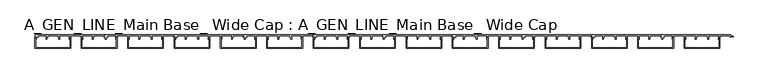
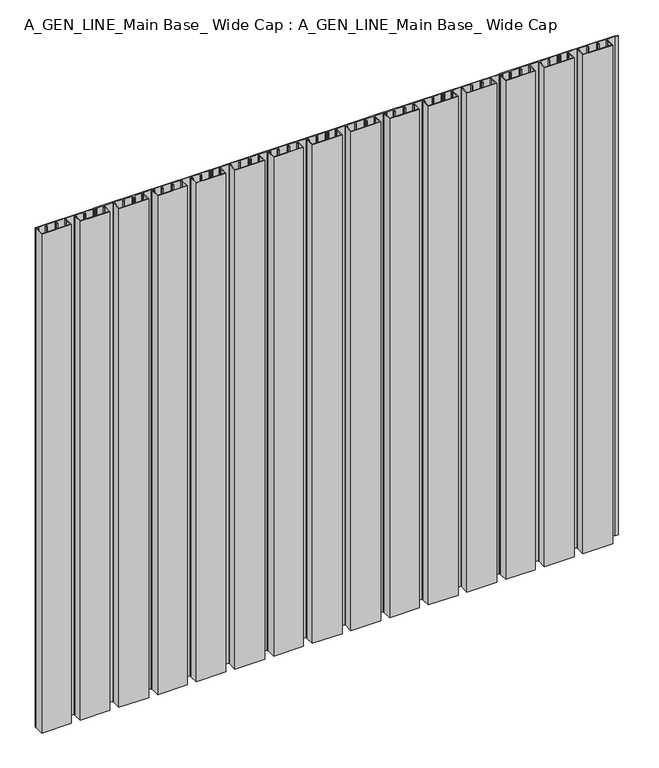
"""IFC4 building model written with IfcOpenShell, lengths in millimetres: proxy geometry, A_GEN_LINE_Main Base_ Wide Cap : A_GEN_LINE_Main Base_ Wide Cap."""

from ifc_helpers import new_model, si_unit, origin, origin_with_axes, place, context, project, spatial, polyline, outline, extrude, source, transform, mapped, element, save


def a_gen_line_main_base_wide_cap_a_gen_line_main_base_wide_cap_99c77cfe(model_context):
    return source(origin(), model_context, "Body", "SweptSolid", [
        extrude(outline(polyline([(1539.7876973, -32.2007192), (1539.7876973, -6.1), (1541.9367042, -6.1), (1541.9367042, -8.3419727), (1541.1876973, -8.5826662), (1541.1876973, -30.8007192), (1623.0107117, -30.8007192), (1623.0107117, -8.5826662), (1622.2617048, -8.3419727), (1622.2617048, -6.1), (1624.4107117, -6.1), (1624.4107117, -32.2007192), (1539.7876973, -32.2007192)])), origin_with_axes(), (0.0, 0.0, 1.0), 1500.0),
        extrude(outline(polyline([(1429.7866985, -32.2007192), (1429.7866985, -6.1), (1431.9357055, -6.1), (1431.9357055, -8.3419727), (1431.1866985, -8.5826662), (1431.1866985, -30.8007192), (1513.009713, -30.8007192), (1513.009713, -8.5826662), (1512.260706, -8.3419727), (1512.260706, -6.1), (1514.409713, -6.1), (1514.409713, -32.2007192), (1429.7866985, -32.2007192)])), origin_with_axes(), (0.0, 0.0, 1.0), 1500.0),
        extrude(outline(polyline([(1319.7856997, -32.2007192), (1319.7856997, -6.1), (1321.9347067, -6.1), (1321.9347067, -8.3419727), (1321.1856997, -8.5826662), (1321.1856997, -30.8007192), (1403.0087142, -30.8007192), (1403.0087142, -8.5826662), (1402.2597072, -8.3419727), (1402.2597072, -6.1), (1404.4087142, -6.1), (1404.4087142, -32.2007192), (1319.7856997, -32.2007192)])), origin_with_axes(), (0.0, 0.0, 1.0), 1500.0),
        extrude(outline(polyline([(1209.7847009, -32.2007192), (1209.7847009, -6.1), (1211.9337079, -6.1), (1211.9337079, -8.3419727), (1211.1847009, -8.5826662), (1211.1847009, -30.8007192), (1293.0077154, -30.8007192), (1293.0077154, -8.5826662), (1292.2587084, -8.3419727), (1292.2587084, -6.1), (1294.4077154, -6.1), (1294.4077154, -32.2007192), (1209.7847009, -32.2007192)])), origin_with_axes(), (0.0, 0.0, 1.0), 1500.0),
        extrude(outline(polyline([(1099.7837022, -32.2007192), (1099.7837022, -6.1), (1101.9327091, -6.1), (1101.9327091, -8.3419727), (1101.1837022, -8.5826662), (1101.1837022, -30.8007192), (1183.0067166, -30.8007192), (1183.0067166, -8.5826662), (1182.2577096, -8.3419727), (1182.2577096, -6.1), (1184.4067166, -6.1), (1184.4067166, -32.2007192), (1099.7837022, -32.2007192)])), origin_with_axes(), (0.0, 0.0, 1.0), 1500.0),
        extrude(outline(polyline([(1485.0, 0.0), (1649.5761088, 0.0), (1649.5761088, -2.85), (1655.5761088, -2.85), (1655.5761088, -4.2), (1648.0577537, -4.2), (1648.0577537, -2.4), (1624.5881862, -2.4), (1624.5881862, -6.1021884), (1623.4732128, -6.1021884), (1621.884647, -8.4994005), (1623.1465809, -8.4994005), (1623.1465809, -10.4818695), (1620.9440548, -10.4818695), (1620.9773381, -5.5238337), (1623.0474159, -2.4), (1596.1309809, -2.4), (1598.2301021, -5.6343123), (1598.2301021, -10.4818695), (1596.027576, -10.4818695), (1596.027576, -8.4994005), (1597.2895099, -8.4994005), (1595.7009441, -6.1021884), (1594.5859707, -6.1021884), (1594.5859707, -2.4), (1569.5854713, -2.4), (1569.5854713, -6.1021884), (1568.4704978, -6.1021884), (1566.881932, -8.4994005), (1568.1438659, -8.4994005), (1568.1438659, -10.4818695), (1565.9413399, -10.4818695), (1565.9413399, -5.5740595), (1568.0447009, -2.4), (1541.1304815, -2.4), (1543.2296027, -5.6343123), (1543.2296027, -10.4818695), (1541.0270766, -10.4818695), (1541.0270766, -8.4994005), (1542.2890105, -8.4994005), (1540.7004447, -6.1021884), (1539.5854713, -6.1021884), (1539.5854713, -2.4), (1514.5849719, -2.4), (1514.5849719, -6.1021884), (1513.4699984, -6.1021884), (1511.8814326, -8.4994005), (1513.1433665, -8.4994005), (1513.1433665, -10.4818695), (1510.9408405, -10.4818695), (1510.9408405, -5.6343123), (1513.0399616, -2.4), (1492.2195527, -2.4), (1492.2195527, -6.1), (1488.2291033, -6.1), (1488.2291033, -10.4818695), (1486.0265772, -10.4818695), (1486.0265772, -8.4994005), (1487.2885111, -8.4994005), (1485.6999453, -6.1021884), (1484.6137598, -6.1021884), (1484.6137598, -4.9), (1491.0195527, -4.9), (1491.0195527, -2.7), (1485.0, -2.7), (1485.0, 0.0)])), origin_with_axes(), (0.0, 0.0, 1.0), 1500.0),
        extrude(outline(polyline([(1320.0, 0.0), (1484.5761088, 0.0), (1484.5761088, -2.85), (1490.5761088, -2.85), (1490.5761088, -4.2), (1483.0577537, -4.2), (1483.0577537, -2.4), (1459.5881862, -2.4), (1459.5881862, -6.1021884), (1458.4732128, -6.1021884), (1456.884647, -8.4994005), (1458.1465809, -8.4994005), (1458.1465809, -10.4818695), (1455.9440548, -10.4818695), (1455.9773381, -5.5238337), (1458.0474159, -2.4), (1431.1309809, -2.4), (1433.2301021, -5.6343123), (1433.2301021, -10.4818695), (1431.027576, -10.4818695), (1431.027576, -8.4994005), (1432.2895099, -8.4994005), (1430.7009441, -6.1021884), (1429.5859707, -6.1021884), (1429.5859707, -2.4), (1404.5854713, -2.4), (1404.5854713, -6.1021884), (1403.4704978, -6.1021884), (1401.881932, -8.4994005), (1403.1438659, -8.4994005), (1403.1438659, -10.4818695), (1400.9413399, -10.4818695), (1400.9413399, -5.5740595), (1403.0447009, -2.4), (1376.1304815, -2.4), (1378.2296027, -5.6343123), (1378.2296027, -10.4818695), (1376.0270766, -10.4818695), (1376.0270766, -8.4994005), (1377.2890105, -8.4994005), (1375.7004447, -6.1021884), (1374.5854713, -6.1021884), (1374.5854713, -2.4), (1349.5849719, -2.4), (1349.5849719, -6.1021884), (1348.4699984, -6.1021884), (1346.8814326, -8.4994005), (1348.1433665, -8.4994005), (1348.1433665, -10.4818695), (1345.9408405, -10.4818695), (1345.9408405, -5.6343123), (1348.0399616, -2.4), (1327.2195527, -2.4), (1327.2195527, -6.1), (1323.2291033, -6.1), (1323.2291033, -10.4818695), (1321.0265772, -10.4818695), (1321.0265772, -8.4994005), (1322.2885111, -8.4994005), (1320.6999453, -6.1021884), (1319.6137598, -6.1021884), (1319.6137598, -4.9), (1326.0195527, -4.9), (1326.0195527, -2.7), (1320.0, -2.7), (1320.0, 0.0)])), origin_with_axes(), (0.0, 0.0, 1.0), 1500.0),
        extrude(outline(polyline([(1155.0, 0.0), (1319.5761088, 0.0), (1319.5761088, -2.85), (1325.5761088, -2.85), (1325.5761088, -4.2), (1318.0577537, -4.2), (1318.0577537, -2.4), (1294.5881862, -2.4), (1294.5881862, -6.1021884), (1293.4732128, -6.1021884), (1291.884647, -8.4994005), (1293.1465809, -8.4994005), (1293.1465809, -10.4818695), (1290.9440548, -10.4818695), (1290.9773381, -5.5238337), (1293.0474159, -2.4), (1266.1309809, -2.4), (1268.2301021, -5.6343123), (1268.2301021, -10.4818695), (1266.027576, -10.4818695), (1266.027576, -8.4994005), (1267.2895099, -8.4994005), (1265.7009441, -6.1021884), (1264.5859707, -6.1021884), (1264.5859707, -2.4), (1239.5854713, -2.4), (1239.5854713, -6.1021884), (1238.4704978, -6.1021884), (1236.881932, -8.4994005), (1238.1438659, -8.4994005), (1238.1438659, -10.4818695), (1235.9413399, -10.4818695), (1235.9413399, -5.5740595), (1238.0447009, -2.4), (1211.1304815, -2.4), (1213.2296027, -5.6343123), (1213.2296027, -10.4818695), (1211.0270766, -10.4818695), (1211.0270766, -8.4994005), (1212.2890105, -8.4994005), (1210.7004447, -6.1021884), (1209.5854713, -6.1021884), (1209.5854713, -2.4), (1184.5849719, -2.4), (1184.5849719, -6.1021884), (1183.4699984, -6.1021884), (1181.8814326, -8.4994005), (1183.1433665, -8.4994005), (1183.1433665, -10.4818695), (1180.9408405, -10.4818695), (1180.9408405, -5.6343123), (1183.0399616, -2.4), (1162.2195527, -2.4), (1162.2195527, -6.1), (1158.2291033, -6.1), (1158.2291033, -10.4818695), (1156.0265772, -10.4818695), (1156.0265772, -8.4994005), (1157.2885111, -8.4994005), (1155.6999453, -6.1021884), (1154.6137598, -6.1021884), (1154.6137598, -4.9), (1161.0195527, -4.9), (1161.0195527, -2.7), (1155.0, -2.7), (1155.0, 0.0)])), origin_with_axes(), (0.0, 0.0, 1.0), 1500.0),
        extrude(outline(polyline([(989.7827034, -32.2007192), (989.7827034, -6.1), (991.9317103, -6.1), (991.9317103, -8.3419727), (991.1827034, -8.5826662), (991.1827034, -30.8007192), (1073.0057178, -30.8007192), (1073.0057178, -8.5826662), (1072.2567109, -8.3419727), (1072.2567109, -6.1), (1074.4057178, -6.1), (1074.4057178, -32.2007192), (989.7827034, -32.2007192)])), origin_with_axes(), (0.0, 0.0, 1.0), 1500.0),
        extrude(outline(polyline([(879.7817046, -32.2007192), (879.7817046, -6.1), (881.9307115, -6.1), (881.9307115, -8.3419727), (881.1817046, -8.5826662), (881.1817046, -30.8007192), (963.004719, -30.8007192), (963.004719, -8.5826662), (962.2557121, -8.3419727), (962.2557121, -6.1), (964.404719, -6.1), (964.404719, -32.2007192), (879.7817046, -32.2007192)])), origin_with_axes(), (0.0, 0.0, 1.0), 1500.0),
        extrude(outline(polyline([(769.7807058, -32.2007192), (769.7807058, -6.1), (771.9297128, -6.1), (771.9297128, -8.3419727), (771.1807058, -8.5826662), (771.1807058, -30.8007192), (853.0037203, -30.8007192), (853.0037203, -8.5826662), (852.2547133, -8.3419727), (852.2547133, -6.1), (854.4037203, -6.1), (854.4037203, -32.2007192), (769.7807058, -32.2007192)])), origin_with_axes(), (0.0, 0.0, 1.0), 1500.0),
        extrude(outline(polyline([(659.779707, -32.2007192), (659.779707, -6.1), (661.928714, -6.1), (661.928714, -8.3419727), (661.179707, -8.5826662), (661.179707, -30.8007192), (743.0027215, -30.8007192), (743.0027215, -8.5826662), (742.2537145, -8.3419727), (742.2537145, -6.1), (744.4027215, -6.1), (744.4027215, -32.2007192), (659.779707, -32.2007192)])), origin_with_axes(), (0.0, 0.0, 1.0), 1500.0),
        extrude(outline(polyline([(549.7787082, -32.2007192), (549.7787082, -6.1), (551.9277152, -6.1), (551.9277152, -8.3419727), (551.1787082, -8.5826662), (551.1787082, -30.8007192), (633.0017227, -30.8007192), (633.0017227, -8.5826662), (632.2527157, -8.3419727), (632.2527157, -6.1), (634.4017227, -6.1), (634.4017227, -32.2007192), (549.7787082, -32.2007192)])), origin_with_axes(), (0.0, 0.0, 1.0), 1500.0),
        extrude(outline(polyline([(439.7777095, -32.2007192), (439.7777095, -6.1), (441.9267164, -6.1), (441.9267164, -8.3419727), (441.1777095, -8.5826662), (441.1777095, -30.8007192), (523.0007239, -30.8007192), (523.0007239, -8.5826662), (522.251717, -8.3419727), (522.251717, -6.1), (524.4007239, -6.1), (524.4007239, -32.2007192), (439.7777095, -32.2007192)])), origin_with_axes(), (0.0, 0.0, 1.0), 1500.0),
        extrude(outline(polyline([(329.7767107, -32.2007192), (329.7767107, -6.1), (331.9257176, -6.1), (331.9257176, -8.3419727), (331.1767107, -8.5826662), (331.1767107, -30.8007192), (412.9997251, -30.8007192), (412.9997251, -8.5826662), (412.2507182, -8.3419727), (412.2507182, -6.1), (414.3997251, -6.1), (414.3997251, -32.2007192), (329.7767107, -32.2007192)])), origin_with_axes(), (0.0, 0.0, 1.0), 1500.0),
        extrude(outline(polyline([(219.7757119, -32.2007192), (219.7757119, -6.1), (221.9247189, -6.1), (221.9247189, -8.3419727), (221.1757119, -8.5826662), (221.1757119, -30.8007192), (302.9987264, -30.8007192), (302.9987264, -8.5826662), (302.2497194, -8.3419727), (302.2497194, -6.1), (304.3987264, -6.1), (304.3987264, -32.2007192), (219.7757119, -32.2007192)])), origin_with_axes(), (0.0, 0.0, 1.0), 1500.0),
        extrude(outline(polyline([(109.7747131, -32.2007192), (109.7747131, -6.1), (111.9237201, -6.1), (111.9237201, -8.3419727), (111.1747131, -8.5826662), (111.1747131, -30.8007192), (192.9977276, -30.8007192), (192.9977276, -8.5826662), (192.2487206, -8.3419727), (192.2487206, -6.1), (194.3977276, -6.1), (194.3977276, -32.2007192), (109.7747131, -32.2007192)])), origin_with_axes(), (0.0, 0.0, 1.0), 1500.0),
        extrude(outline(polyline([(-0.2262857, -32.2007192), (-0.2262857, -6.1), (1.9227213, -6.1), (1.9227213, -8.3419727), (1.1737143, -8.5826662), (1.1737143, -30.8007192), (82.9967288, -30.8007192), (82.9967288, -8.5826662), (82.2477218, -8.3419727), (82.2477218, -6.1), (84.3967288, -6.1), (84.3967288, -32.2007192), (-0.2262857, -32.2007192)])), origin_with_axes(), (0.0, 0.0, 1.0), 1500.0),
        extrude(outline(polyline([(990.0, 0.0), (1154.5761088, 0.0), (1154.5761088, -2.85), (1160.5761088, -2.85), (1160.5761088, -4.2), (1153.0577537, -4.2), (1153.0577537, -2.4), (1129.5881862, -2.4), (1129.5881862, -6.1021884), (1128.4732128, -6.1021884), (1126.884647, -8.4994005), (1128.1465809, -8.4994005), (1128.1465809, -10.4818695), (1125.9440548, -10.4818695), (1125.9773381, -5.5238337), (1128.0474159, -2.4), (1101.1309809, -2.4), (1103.2301021, -5.6343123), (1103.2301021, -10.4818695), (1101.027576, -10.4818695), (1101.027576, -8.4994005), (1102.2895099, -8.4994005), (1100.7009441, -6.1021884), (1099.5859707, -6.1021884), (1099.5859707, -2.4), (1074.5854713, -2.4), (1074.5854713, -6.1021884), (1073.4704978, -6.1021884), (1071.881932, -8.4994005), (1073.1438659, -8.4994005), (1073.1438659, -10.4818695), (1070.9413399, -10.4818695), (1070.9413399, -5.5740595), (1073.0447009, -2.4), (1046.1304815, -2.4), (1048.2296027, -5.6343123), (1048.2296027, -10.4818695), (1046.0270766, -10.4818695), (1046.0270766, -8.4994005), (1047.2890105, -8.4994005), (1045.7004447, -6.1021884), (1044.5854713, -6.1021884), (1044.5854713, -2.4), (1019.5849719, -2.4), (1019.5849719, -6.1021884), (1018.4699984, -6.1021884), (1016.8814326, -8.4994005), (1018.1433665, -8.4994005), (1018.1433665, -10.4818695), (1015.9408405, -10.4818695), (1015.9408405, -5.6343123), (1018.0399616, -2.4), (997.2195527, -2.4), (997.2195527, -6.1), (993.2291033, -6.1), (993.2291033, -10.4818695), (991.0265772, -10.4818695), (991.0265772, -8.4994005), (992.2885111, -8.4994005), (990.6999453, -6.1021884), (989.6137598, -6.1021884), (989.6137598, -4.9), (996.0195527, -4.9), (996.0195527, -2.7), (990.0, -2.7), (990.0, 0.0)])), origin_with_axes(), (0.0, 0.0, 1.0), 1500.0),
        extrude(outline(polyline([(825.0, 0.0), (989.5761088, 0.0), (989.5761088, -2.85), (995.5761088, -2.85), (995.5761088, -4.2), (988.0577537, -4.2), (988.0577537, -2.4), (964.5881862, -2.4), (964.5881862, -6.1021884), (963.4732128, -6.1021884), (961.884647, -8.4994005), (963.1465809, -8.4994005), (963.1465809, -10.4818695), (960.9440548, -10.4818695), (960.9773381, -5.5238337), (963.0474159, -2.4), (936.1309809, -2.4), (938.2301021, -5.6343123), (938.2301021, -10.4818695), (936.027576, -10.4818695), (936.027576, -8.4994005), (937.2895099, -8.4994005), (935.7009441, -6.1021884), (934.5859707, -6.1021884), (934.5859707, -2.4), (909.5854713, -2.4), (909.5854713, -6.1021884), (908.4704978, -6.1021884), (906.881932, -8.4994005), (908.1438659, -8.4994005), (908.1438659, -10.4818695), (905.9413399, -10.4818695), (905.9413399, -5.5740595), (908.0447009, -2.4), (881.1304815, -2.4), (883.2296027, -5.6343123), (883.2296027, -10.4818695), (881.0270766, -10.4818695), (881.0270766, -8.4994005), (882.2890105, -8.4994005), (880.7004447, -6.1021884), (879.5854713, -6.1021884), (879.5854713, -2.4), (854.5849719, -2.4), (854.5849719, -6.1021884), (853.4699984, -6.1021884), (851.8814326, -8.4994005), (853.1433665, -8.4994005), (853.1433665, -10.4818695), (850.9408405, -10.4818695), (850.9408405, -5.6343123), (853.0399616, -2.4), (832.2195527, -2.4), (832.2195527, -6.1), (828.2291033, -6.1), (828.2291033, -10.4818695), (826.0265772, -10.4818695), (826.0265772, -8.4994005), (827.2885111, -8.4994005), (825.6999453, -6.1021884), (824.6137598, -6.1021884), (824.6137598, -4.9), (831.0195527, -4.9), (831.0195527, -2.7), (825.0, -2.7), (825.0, 0.0)])), origin_with_axes(), (0.0, 0.0, 1.0), 1500.0),
        extrude(outline(polyline([(660.0, 0.0), (824.5761088, 0.0), (824.5761088, -2.85), (830.5761088, -2.85), (830.5761088, -4.2), (823.0577537, -4.2), (823.0577537, -2.4), (799.5881862, -2.4), (799.5881862, -6.1021884), (798.4732128, -6.1021884), (796.884647, -8.4994005), (798.1465809, -8.4994005), (798.1465809, -10.4818695), (795.9440548, -10.4818695), (795.9773381, -5.5238337), (798.0474159, -2.4), (771.1309809, -2.4), (773.2301021, -5.6343123), (773.2301021, -10.4818695), (771.027576, -10.4818695), (771.027576, -8.4994005), (772.2895099, -8.4994005), (770.7009441, -6.1021884), (769.5859707, -6.1021884), (769.5859707, -2.4), (744.5854713, -2.4), (744.5854713, -6.1021884), (743.4704978, -6.1021884), (741.881932, -8.4994005), (743.1438659, -8.4994005), (743.1438659, -10.4818695), (740.9413399, -10.4818695), (740.9413399, -5.5740595), (743.0447009, -2.4), (716.1304815, -2.4), (718.2296027, -5.6343123), (718.2296027, -10.4818695), (716.0270766, -10.4818695), (716.0270766, -8.4994005), (717.2890105, -8.4994005), (715.7004447, -6.1021884), (714.5854713, -6.1021884), (714.5854713, -2.4), (689.5849719, -2.4), (689.5849719, -6.1021884), (688.4699984, -6.1021884), (686.8814326, -8.4994005), (688.1433665, -8.4994005), (688.1433665, -10.4818695), (685.9408405, -10.4818695), (685.9408405, -5.6343123), (688.0399616, -2.4), (667.2195527, -2.4), (667.2195527, -6.1), (663.2291033, -6.1), (663.2291033, -10.4818695), (661.0265772, -10.4818695), (661.0265772, -8.4994005), (662.2885111, -8.4994005), (660.6999453, -6.1021884), (659.6137598, -6.1021884), (659.6137598, -4.9), (666.0195527, -4.9), (666.0195527, -2.7), (660.0, -2.7), (660.0, 0.0)])), origin_with_axes(), (0.0, 0.0, 1.0), 1500.0),
        extrude(outline(polyline([(495.0, 0.0), (659.5761088, 0.0), (659.5761088, -2.85), (665.5761088, -2.85), (665.5761088, -4.2), (658.0577537, -4.2), (658.0577537, -2.4), (634.5881862, -2.4), (634.5881862, -6.1021884), (633.4732128, -6.1021884), (631.884647, -8.4994005), (633.1465809, -8.4994005), (633.1465809, -10.4818695), (630.9440548, -10.4818695), (630.9773381, -5.5238337), (633.0474159, -2.4), (606.1309809, -2.4), (608.2301021, -5.6343123), (608.2301021, -10.4818695), (606.027576, -10.4818695), (606.027576, -8.4994005), (607.2895099, -8.4994005), (605.7009441, -6.1021884), (604.5859707, -6.1021884), (604.5859707, -2.4), (579.5854713, -2.4), (579.5854713, -6.1021884), (578.4704978, -6.1021884), (576.881932, -8.4994005), (578.1438659, -8.4994005), (578.1438659, -10.4818695), (575.9413399, -10.4818695), (575.9413399, -5.5740595), (578.0447009, -2.4), (551.1304815, -2.4), (553.2296027, -5.6343123), (553.2296027, -10.4818695), (551.0270766, -10.4818695), (551.0270766, -8.4994005), (552.2890105, -8.4994005), (550.7004447, -6.1021884), (549.5854713, -6.1021884), (549.5854713, -2.4), (524.5849719, -2.4), (524.5849719, -6.1021884), (523.4699984, -6.1021884), (521.8814326, -8.4994005), (523.1433665, -8.4994005), (523.1433665, -10.4818695), (520.9408405, -10.4818695), (520.9408405, -5.6343123), (523.0399616, -2.4), (502.2195527, -2.4), (502.2195527, -6.1), (498.2291033, -6.1), (498.2291033, -10.4818695), (496.0265772, -10.4818695), (496.0265772, -8.4994005), (497.2885111, -8.4994005), (495.6999453, -6.1021884), (494.6137598, -6.1021884), (494.6137598, -4.9), (501.0195527, -4.9), (501.0195527, -2.7), (495.0, -2.7), (495.0, 0.0)])), origin_with_axes(), (0.0, 0.0, 1.0), 1500.0),
        extrude(outline(polyline([(330.0, 0.0), (494.5761088, 0.0), (494.5761088, -2.85), (500.5761088, -2.85), (500.5761088, -4.2), (493.0577537, -4.2), (493.0577537, -2.4), (469.5881862, -2.4), (469.5881862, -6.1021884), (468.4732128, -6.1021884), (466.884647, -8.4994005), (468.1465809, -8.4994005), (468.1465809, -10.4818695), (465.9440548, -10.4818695), (465.9773381, -5.5238337), (468.0474159, -2.4), (441.1309809, -2.4), (443.2301021, -5.6343123), (443.2301021, -10.4818695), (441.027576, -10.4818695), (441.027576, -8.4994005), (442.2895099, -8.4994005), (440.7009441, -6.1021884), (439.5859707, -6.1021884), (439.5859707, -2.4), (414.5854713, -2.4), (414.5854713, -6.1021884), (413.4704978, -6.1021884), (411.881932, -8.4994005), (413.1438659, -8.4994005), (413.1438659, -10.4818695), (410.9413399, -10.4818695), (410.9413399, -5.5740595), (413.0447009, -2.4), (386.1304815, -2.4), (388.2296027, -5.6343123), (388.2296027, -10.4818695), (386.0270766, -10.4818695), (386.0270766, -8.4994005), (387.2890105, -8.4994005), (385.7004447, -6.1021884), (384.5854713, -6.1021884), (384.5854713, -2.4), (359.5849719, -2.4), (359.5849719, -6.1021884), (358.4699984, -6.1021884), (356.8814326, -8.4994005), (358.1433665, -8.4994005), (358.1433665, -10.4818695), (355.9408405, -10.4818695), (355.9408405, -5.6343123), (358.0399616, -2.4), (337.2195527, -2.4), (337.2195527, -6.1), (333.2291033, -6.1), (333.2291033, -10.4818695), (331.0265772, -10.4818695), (331.0265772, -8.4994005), (332.2885111, -8.4994005), (330.6999453, -6.1021884), (329.6137598, -6.1021884), (329.6137598, -4.9), (336.0195527, -4.9), (336.0195527, -2.7), (330.0, -2.7), (330.0, 0.0)])), origin_with_axes(), (0.0, 0.0, 1.0), 1500.0),
        extrude(outline(polyline([(165.0, 0.0), (329.5761088, 0.0), (329.5761088, -2.85), (335.5761088, -2.85), (335.5761088, -4.2), (328.0577537, -4.2), (328.0577537, -2.4), (304.5881862, -2.4), (304.5881862, -6.1021884), (303.4732128, -6.1021884), (301.884647, -8.4994005), (303.1465809, -8.4994005), (303.1465809, -10.4818695), (300.9440548, -10.4818695), (300.9773381, -5.5238337), (303.0474159, -2.4), (276.1309809, -2.4), (278.2301021, -5.6343123), (278.2301021, -10.4818695), (276.027576, -10.4818695), (276.027576, -8.4994005), (277.2895099, -8.4994005), (275.7009441, -6.1021884), (274.5859707, -6.1021884), (274.5859707, -2.4), (249.5854713, -2.4), (249.5854713, -6.1021884), (248.4704978, -6.1021884), (246.881932, -8.4994005), (248.1438659, -8.4994005), (248.1438659, -10.4818695), (245.9413399, -10.4818695), (245.9413399, -5.5740595), (248.0447009, -2.4), (221.1304815, -2.4), (223.2296027, -5.6343123), (223.2296027, -10.4818695), (221.0270766, -10.4818695), (221.0270766, -8.4994005), (222.2890105, -8.4994005), (220.7004447, -6.1021884), (219.5854713, -6.1021884), (219.5854713, -2.4), (194.5849719, -2.4), (194.5849719, -6.1021884), (193.4699984, -6.1021884), (191.8814326, -8.4994005), (193.1433665, -8.4994005), (193.1433665, -10.4818695), (190.9408405, -10.4818695), (190.9408405, -5.6343123), (193.0399616, -2.4), (172.2195527, -2.4), (172.2195527, -6.1), (168.2291033, -6.1), (168.2291033, -10.4818695), (166.0265772, -10.4818695), (166.0265772, -8.4994005), (167.2885111, -8.4994005), (165.6999453, -6.1021884), (164.6137598, -6.1021884), (164.6137598, -4.9), (171.0195527, -4.9), (171.0195527, -2.7), (165.0, -2.7), (165.0, 0.0)])), origin_with_axes(), (0.0, 0.0, 1.0), 1500.0),
        extrude(outline(polyline([(0.0, 0.0), (164.5761088, 0.0), (164.5761088, -2.85), (170.5761088, -2.85), (170.5761088, -4.2), (163.0577537, -4.2), (163.0577537, -2.4), (139.5881862, -2.4), (139.5881862, -6.1021884), (138.4732128, -6.1021884), (136.884647, -8.4994005), (138.1465809, -8.4994005), (138.1465809, -10.4818695), (135.9440548, -10.4818695), (135.9773381, -5.5238337), (138.0474159, -2.4), (111.1309809, -2.4), (113.2301021, -5.6343123), (113.2301021, -10.4818695), (111.027576, -10.4818695), (111.027576, -8.4994005), (112.2895099, -8.4994005), (110.7009441, -6.1021884), (109.5859707, -6.1021884), (109.5859707, -2.4), (84.5854713, -2.4), (84.5854713, -6.1021884), (83.4704978, -6.1021884), (81.881932, -8.4994005), (83.1438659, -8.4994005), (83.1438659, -10.4818695), (80.9413399, -10.4818695), (80.9413399, -5.5740595), (83.0447009, -2.4), (56.1304815, -2.4), (58.2296027, -5.6343123), (58.2296027, -10.4818695), (56.0270766, -10.4818695), (56.0270766, -8.4994005), (57.2890105, -8.4994005), (55.7004447, -6.1021884), (54.5854713, -6.1021884), (54.5854713, -2.4), (29.5849719, -2.4), (29.5849719, -6.1021884), (28.4699984, -6.1021884), (26.8814326, -8.4994005), (28.1433665, -8.4994005), (28.1433665, -10.4818695), (25.9408405, -10.4818695), (25.9408405, -5.6343123), (28.0399616, -2.4), (7.2195527, -2.4), (7.2195527, -6.1), (3.2291033, -6.1), (3.2291033, -10.4818695), (1.0265772, -10.4818695), (1.0265772, -8.4994005), (2.2885111, -8.4994005), (0.6999453, -6.1021884), (-0.3862402, -6.1021884), (-0.3862402, -4.9), (6.0195527, -4.9), (6.0195527, -2.7), (0.0, -2.7), (0.0, 0.0)])), origin_with_axes(), (0.0, 0.0, 1.0), 1500.0),
    ])


if __name__ == "__main__":
    model = new_model("IFC4")
    model_context = context("Model", 3, world=origin())
    ifc_project = project(units=[si_unit("LENGTHUNIT", "METRE", prefix="MILLI")], contexts=[model_context])
    site = spatial("IfcSite", under=ifc_project)
    building = spatial("IfcBuilding", under=site)
    placement = place(None, origin())
    a_gen_line_main_base_wide_cap_a_gen_line_main_base_wide_cap_shape = a_gen_line_main_base_wide_cap_a_gen_line_main_base_wide_cap_99c77cfe(model_context)
    element("IfcBuildingElementProxy", 1, Name="A_GEN_LINE_Main Base_ Wide Cap : A_GEN_LINE_Main Base_ Wide Cap", ObjectType="A_GEN_LINE_Main Base_ Wide Cap : A_GEN_LINE_Main Base_ Wide Cap", at=placement, inside=building, context=model_context, shape_type="MappedRepresentation", body=[
        mapped(a_gen_line_main_base_wide_cap_a_gen_line_main_base_wide_cap_shape, transform((0.0, 0.0, 0.0), x_axis=(1.0, 0.0, 0.0), y_axis=(0.0, 1.0, 0.0), z_axis=(0.0, 0.0, 1.0))),
    ])
    save(model, "model.ifc")
